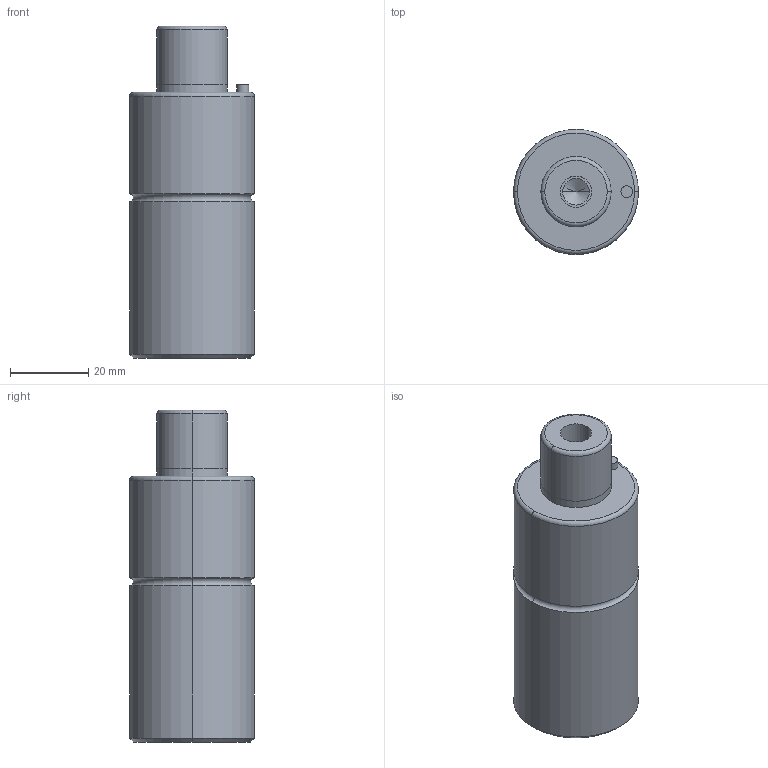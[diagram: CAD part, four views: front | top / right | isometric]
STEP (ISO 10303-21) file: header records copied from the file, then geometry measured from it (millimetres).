
FILE_DESCRIPTION(/* description */ (''),/* implementation_level */ '2;1');
FILE_NAME(/* name */ '3d_gsm32-15_03938_r00.stp',/* time_stamp */ '2011-01-10T14:15:16+09:00',/* author */ ('MISUMI'),/* organization */ (''),/* preprocessor_version */ 'ST-DEVELOPER v11',/* originating_system */ 'UGS - NX 5.0',/* authorisation */ '');
FILE_SCHEMA (('CONFIG_CONTROL_DESIGN'));
Length unit declared in the file: millimetre
Products named in the file (1): 3d_gsm32-15_03938_r00
Bounding box: 32 x 32 x 85 mm (x, y, z)
Volume: 57385.6 mm3; surface area: 10263.4 mm2
Topology: 1 solids, 1 shells, 50 faces, 106 edges, 60 vertices
Faces by surface type: cylinder 26, cone 10, plane 8, torus 6
Entity records: 1382 total; most frequent: DIRECTION 262, CARTESIAN_POINT 209, ORIENTED_EDGE 196, AXIS2_PLACEMENT_3D 113, EDGE_CURVE 98, CIRCLE 62, EDGE_LOOP 60, VERTEX_POINT 60
